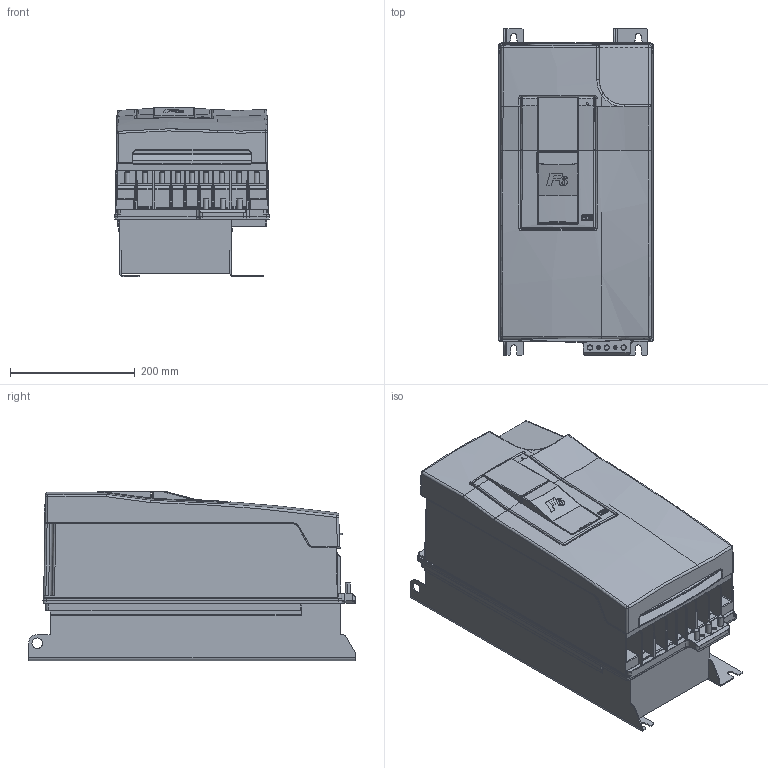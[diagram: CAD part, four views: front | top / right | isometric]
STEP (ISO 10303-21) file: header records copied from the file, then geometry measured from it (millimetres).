
FILE_DESCRIPTION (( 'STEP AP214' ), '1' );
FILE_NAME ('F6-6 TR0-A010.STEP', '2020-12-08T13:36:14', ( '' ), ( '' ), 'SwSTEP 2.0', 'SolidWorks 2019', '' );
FILE_SCHEMA (( 'AUTOMOTIVE_DESIGN' ));
Length unit declared in the file: millimetre
Products named in the file (11): F6-6 TR0-A010; 10061794_000; 10059764_000_Blindabdeckung (Kundenmodell); 10044643_000_Kundenmodell; 10060787_000; 10059761_000; 10028354_000_Basis Leistungsteil F6-6 TR0 (Kundenmodell); 10061793_000_Deckelbaugruppe F6-6 (Kundenmodell); 10061887_000; 10027052_000_Geh„usebaugruppe F6-6 (Kundenmodell); 10059765_000
Assembly tree (10 placements, depth 4):
  F6-6 TR0-A010
    10028354_000_Basis Leistungsteil F6-6 TR0 (Kundenmodell)
      10061887_000
    10027052_000_Geh„usebaugruppe F6-6 (Kundenmodell)
      10061793_000_Deckelbaugruppe F6-6 (Kundenmodell)
        10061794_000
      10060787_000
    10044643_000_Kundenmodell
      10059764_000_Blindabdeckung (Kundenmodell)
        10059765_000
      10059761_000
Bounding box: 249 x 525 x 271.9 mm (x, y, z)
Volume: 25429293.3 mm3; surface area: 1369856.3 mm2
Topology: 12 solids, 20 shells, 2901 faces, 7256 edges, 4322 vertices
Faces by surface type: plane 1020, cylinder 1016, bspline 559, torus 128, sphere 108, cone 70
Entity records: 97360 total; most frequent: CARTESIAN_POINT 33067, ORIENTED_EDGE 14216, DIRECTION 12405, EDGE_CURVE 7108, AXIS2_PLACEMENT_3D 4392, VERTEX_POINT 4320, LINE 3621, VECTOR 3621
